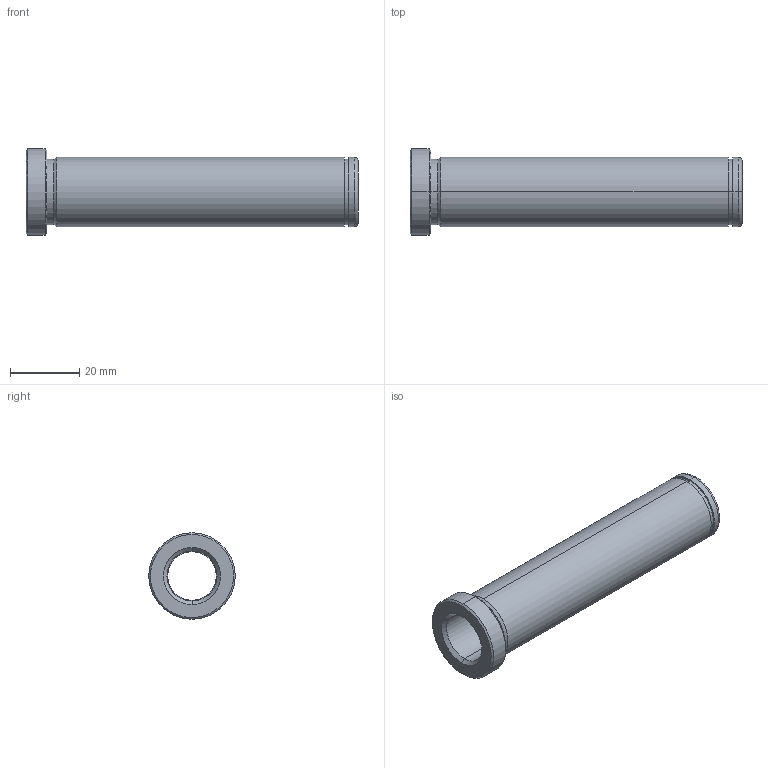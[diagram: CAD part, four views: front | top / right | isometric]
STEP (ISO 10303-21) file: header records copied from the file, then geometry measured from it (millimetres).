
FILE_DESCRIPTION(('CATIA V5 STEP Exchange'),'2;1');
FILE_NAME('C:\Users\Utente\Desktop\IO LAVORO\3D X SITO CF\X SITO\PLASTICA\553\553-14X96.stp','2021-05-21T18:29:18+00:00',('none'),('none'),'CATIA Version 5 Release 20 GA (IN-10)','CATIA V5 STEP AP203','none');
FILE_SCHEMA(('CONFIG_CONTROL_DESIGN'));
Length unit declared in the file: millimetre
Products named in the file (1): 553-14X96
Bounding box: 96 x 25 x 25 mm (x, y, z)
Volume: 15688.8 mm3; surface area: 11062.4 mm2
Topology: 1 solids, 1 shells, 32 faces, 102 edges, 76 vertices
Faces by surface type: cylinder 14, cone 8, plane 6, torus 4
Entity records: 1334 total; most frequent: CARTESIAN_POINT 389, ORIENTED_EDGE 204, DIRECTION 152, EDGE_CURVE 102, AXIS2_PLACEMENT_3D 99, VERTEX_POINT 76, CIRCLE 66, EDGE_LOOP 38
